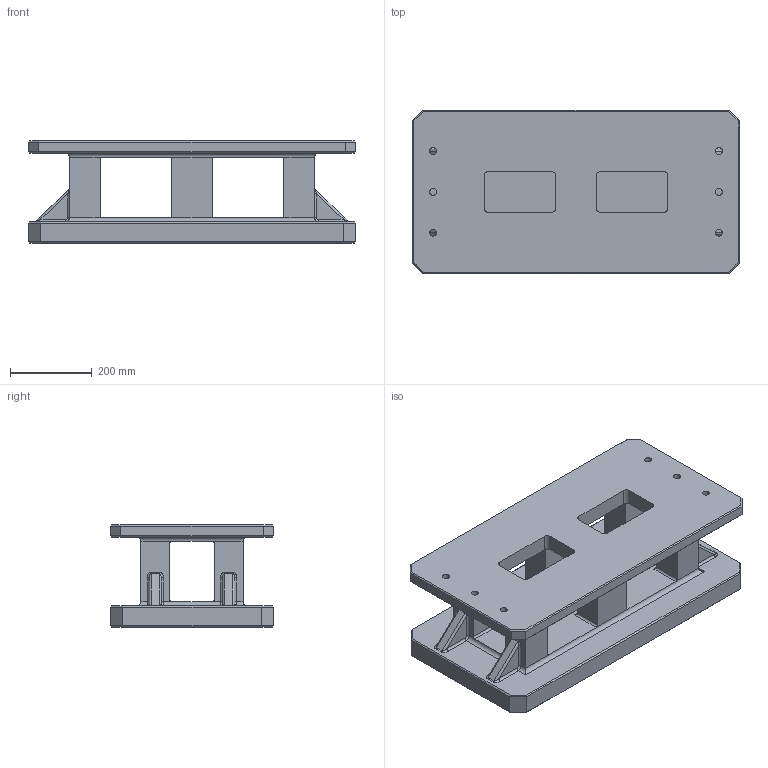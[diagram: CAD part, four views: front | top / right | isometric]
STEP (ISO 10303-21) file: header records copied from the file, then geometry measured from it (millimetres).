
FILE_DESCRIPTION((''),'2;1');
FILE_NAME('FG_WH_RISTL_RTGRDNP004','2026-05-27T15:20:09',('Admin'),(''),'CREO PARAMETRIC BY PTC INC, 2025010','CREO PARAMETRIC BY PTC INC, 2025010','');
FILE_SCHEMA(('CONFIG_CONTROL_DESIGN'));
Length unit declared in the file: millimetre
Products named in the file (1): FG_WH_RISTL_RTGRDNP004
Bounding box: 800 x 400 x 250 mm (x, y, z)
Volume: 32837553.7 mm3; surface area: 1937544.1 mm2
Topology: 1 solids, 106 shells, 1387 faces, 3088 edges, 1911 vertices
Faces by surface type: cylinder 734, plane 419, cone 210, bspline 24
Entity records: 38426 total; most frequent: CARTESIAN_POINT 7497, DIRECTION 7172, ORIENTED_EDGE 5546, AXIS2_PLACEMENT_3D 2986, EDGE_CURVE 2878, VERTEX_POINT 1911, EDGE_LOOP 1726, CIRCLE 1622
